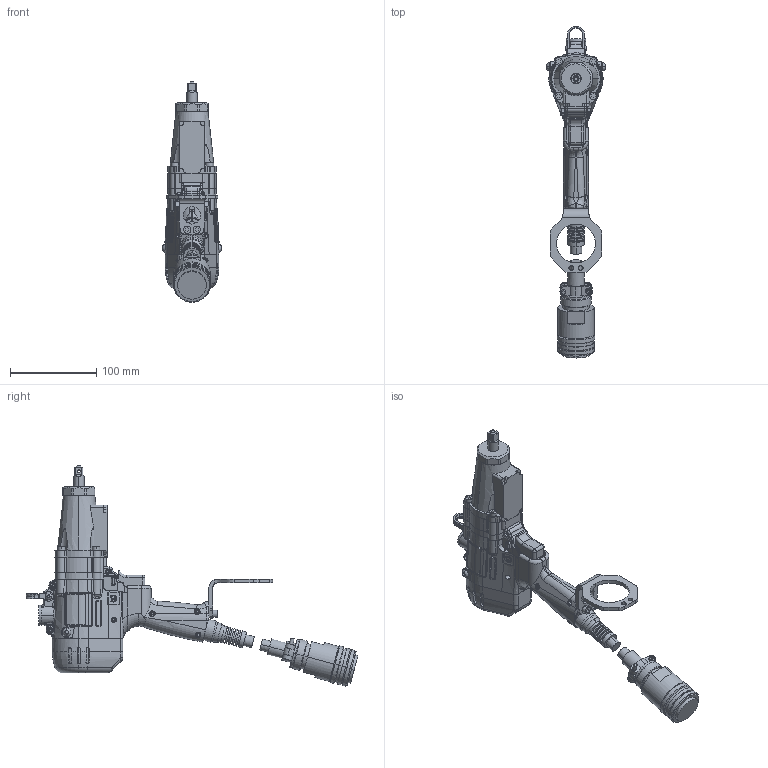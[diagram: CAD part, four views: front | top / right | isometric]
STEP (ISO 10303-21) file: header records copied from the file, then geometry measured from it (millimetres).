
FILE_DESCRIPTION (( 'STEP AP203' ), '1' );
FILE_NAME ('UEP-70MC.step', '2006-01-30T06:55:34', ( '山田　善嗣' ), ( 'TECH' ), 'SwSTEP 2.0', 'SolidWorks 2004073', '' );
FILE_SCHEMA (( 'CONFIG_CONTROL_DESIGN' ));
Products named in the file (12): 9105020_UEP-70MC_蹬怮椔; 1379757_UEP-70MC_蹬怮椔; GRIP-COVER_UEP-70MC_蹬怮椔; UEP-70MC; 1360124_UEP-70MC_蹬怮椔; 1367947_UEP-70MC_蹬怮椔; 9106010_UEP-70MC_蹬怮椔; 1367917_UEP-70MC_蹬怮椔; 1360049_UEP-70MC_蹬怮椔; 1370277_UEP-70MC_蹬怮椔; 1362128_UEP-70MC_蹬怮椔; 9105230_UEP-70MC_蹬怮椔
Assembly tree (11 placements, depth 2):
  UEP-70MC
    1367947_UEP-70MC_蹬怮椔
    1360124_UEP-70MC_蹬怮椔
    1379757_UEP-70MC_蹬怮椔
    GRIP-COVER_UEP-70MC_蹬怮椔
    1362128_UEP-70MC_蹬怮椔
    9105230_UEP-70MC_蹬怮椔
    1370277_UEP-70MC_蹬怮椔
    1367917_UEP-70MC_蹬怮椔
    9105020_UEP-70MC_蹬怮椔
    1360049_UEP-70MC_蹬怮椔
    9106010_UEP-70MC_蹬怮椔
Bounding box: 67.91 x 383.74 x 254.84 mm (x, y, z)
Volume: 856019.4 mm3; surface area: 151276.2 mm2
Topology: 11 solids, 11 shells, 1724 faces, 4595 edges, 2947 vertices
Faces by surface type: plane 863, cylinder 516, bspline 167, torus 115, cone 45, sphere 18
Entity records: 128826 total; most frequent: CARTESIAN_POINT 87295, ORIENTED_EDGE 9142, DIRECTION 7549, EDGE_CURVE 4571, VERTEX_POINT 2947, AXIS2_PLACEMENT_3D 2742, VECTOR 2065, LINE 2065
